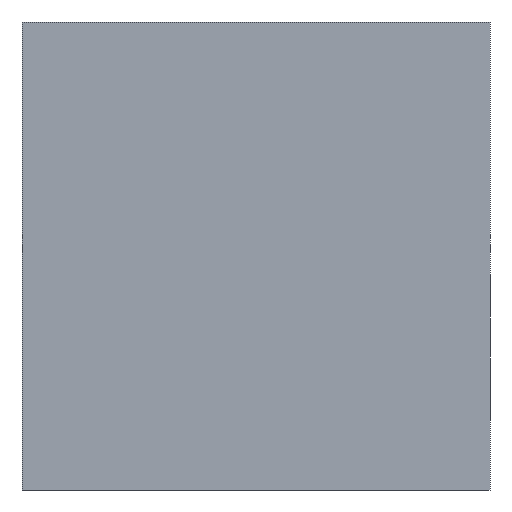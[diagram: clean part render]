
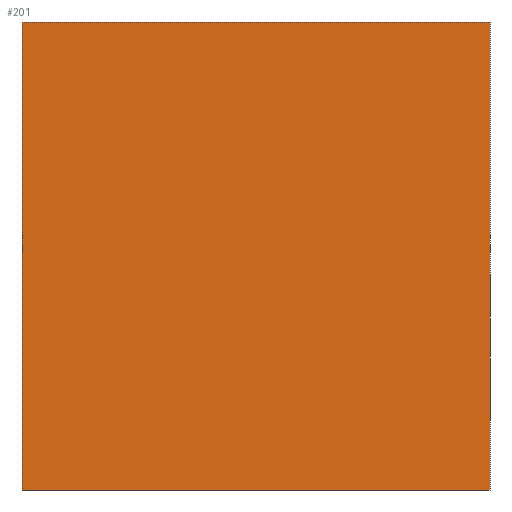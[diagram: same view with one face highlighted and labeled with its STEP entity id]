
A CAD part, front view. The second image highlights one B-rep face of the part: STEP entity #201.
In plain terms, the highlighted planar face has unit normal (0, -1, 0).
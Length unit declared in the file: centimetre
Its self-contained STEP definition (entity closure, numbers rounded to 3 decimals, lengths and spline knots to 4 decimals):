
#4 = DIRECTION ( 'NONE',  ( 1., 0., 0. ) ) ;
#18 = DIRECTION ( 'NONE',  ( 1., 0., 0. ) ) ;
#22 = LINE ( 'NONE', #80, #88 ) ;
#23 = ORIENTED_EDGE ( 'NONE', *, *, #40, .T. ) ;
#27 = CARTESIAN_POINT ( 'NONE',  ( 0., 0., 1000. ) ) ;
#40 = EDGE_CURVE ( 'NONE', #347, #128, #272, .T. ) ;
#51 = CARTESIAN_POINT ( 'NONE',  ( 0., 0., 0. ) ) ;
#56 = ORIENTED_EDGE ( 'NONE', *, *, #260, .F. ) ;
#67 = LINE ( 'NONE', #27, #244 ) ;
#80 = CARTESIAN_POINT ( 'NONE',  ( 1000., 0., 1000. ) ) ;
#83 = CARTESIAN_POINT ( 'NONE',  ( 0., 0., 0. ) ) ;
#86 = FACE_OUTER_BOUND ( 'NONE', #344, .T. ) ;
#88 = VECTOR ( 'NONE', #334, 100. ) ;
#98 = EDGE_CURVE ( 'NONE', #336, #128, #22, .T. ) ;
#128 = VERTEX_POINT ( 'NONE', #374 ) ;
#129 = DIRECTION ( 'NONE',  ( 0., 0., -1. ) ) ;
#175 = CARTESIAN_POINT ( 'NONE',  ( 0., 0., 1000. ) ) ;
#201 = ADVANCED_FACE ( 'NONE', ( #86 ), #263, .F. ) ;
#202 = DIRECTION ( 'NONE',  ( 0., 0., 1. ) ) ;
#225 = CARTESIAN_POINT ( 'NONE',  ( 0., 0., 1000. ) ) ;
#227 = VECTOR ( 'NONE', #129, 100. ) ;
#233 = DIRECTION ( 'NONE',  ( 0., 1., 0. ) ) ;
#244 = VECTOR ( 'NONE', #4, 100. ) ;
#255 = LINE ( 'NONE', #225, #227 ) ;
#256 = VERTEX_POINT ( 'NONE', #175 ) ;
#260 = EDGE_CURVE ( 'NONE', #256, #336, #67, .T. ) ;
#263 = PLANE ( 'NONE',  #267 ) ;
#267 = AXIS2_PLACEMENT_3D ( 'NONE', #353, #233, #202 ) ;
#272 = LINE ( 'NONE', #51, #299 ) ;
#299 = VECTOR ( 'NONE', #18, 100. ) ;
#305 = ORIENTED_EDGE ( 'NONE', *, *, #341, .T. ) ;
#334 = DIRECTION ( 'NONE',  ( 0., 0., -1. ) ) ;
#336 = VERTEX_POINT ( 'NONE', #373 ) ;
#341 = EDGE_CURVE ( 'NONE', #256, #347, #255, .T. ) ;
#344 = EDGE_LOOP ( 'NONE', ( #23, #372, #56, #305 ) ) ;
#347 = VERTEX_POINT ( 'NONE', #83 ) ;
#353 = CARTESIAN_POINT ( 'NONE',  ( 0., 0., 1000. ) ) ;
#372 = ORIENTED_EDGE ( 'NONE', *, *, #98, .F. ) ;
#373 = CARTESIAN_POINT ( 'NONE',  ( 1000., 0., 1000. ) ) ;
#374 = CARTESIAN_POINT ( 'NONE',  ( 1000., 0., 0. ) ) ;
